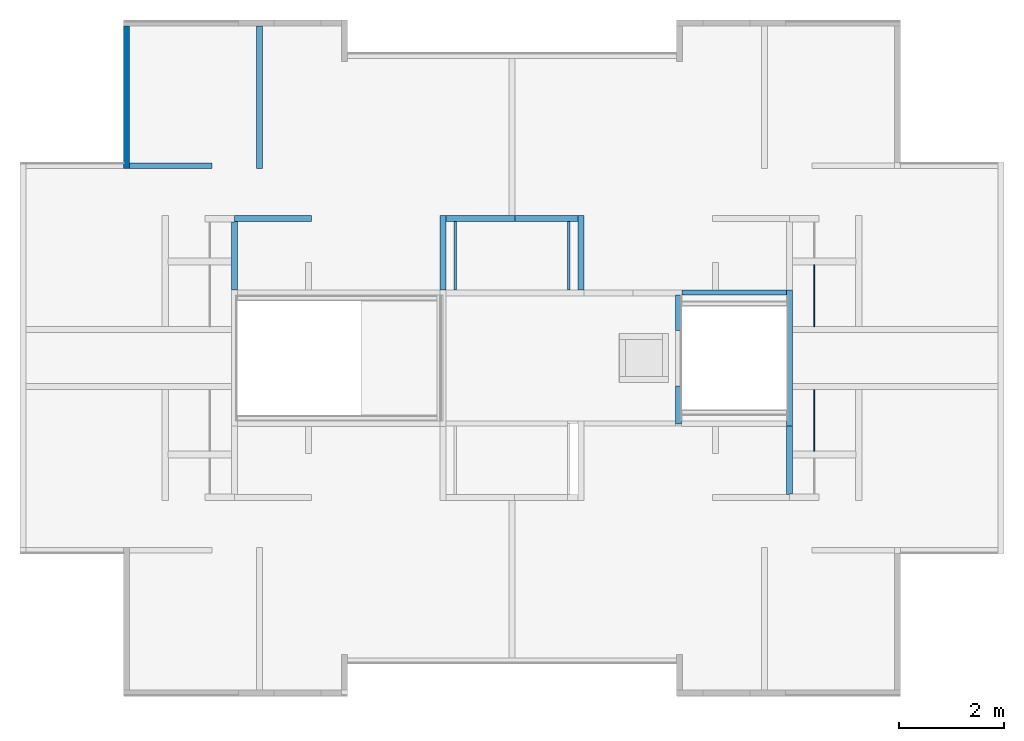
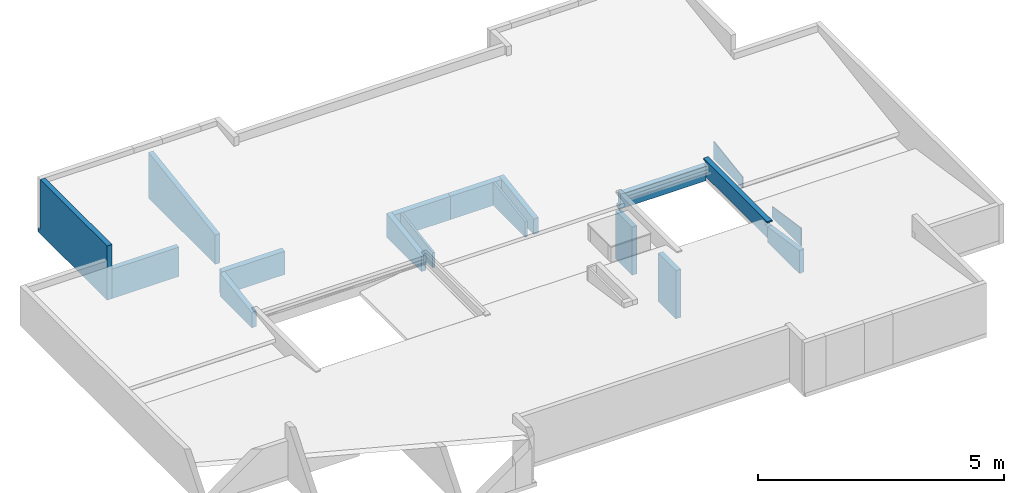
# One storey, part 5 of 9: 18 walls, 2 openings.
"""IFC4 building model written with IfcOpenShell, lengths in metres."""

from ifc_helpers import new_model, entity, si_unit, converted_unit, derived_unit, direction, frame, origin, place, context, subcontext, project, spatial, indexed_curve, outline, extrude, polygons, material, constituent, constituent_set, type_object, element, save


model = new_model("IFC4")

# Units and contexts
model_context = context("Model", 3, precision=1e-05, world=origin(), true_north=direction((6.123031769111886e-17, 1.0)))
body_context = subcontext(model_context, "Body", "Model", "MODEL_VIEW")
ifc_project = project(units=[si_unit("LENGTHUNIT", "METRE"), si_unit("AREAUNIT", "SQUARE_METRE"), si_unit("VOLUMEUNIT", "CUBIC_METRE"), converted_unit("PLANEANGLEUNIT", "DEGREE", entity("IfcRatioMeasure", 0.017453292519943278), si_unit("PLANEANGLEUNIT", "RADIAN"), dimensions=[0, 0, 0, 0, 0, 0, 0]), si_unit("MASSUNIT", "GRAM", prefix="KILO"), derived_unit("MASSDENSITYUNIT", [(si_unit("MASSUNIT", "GRAM", prefix="KILO"), 1), (si_unit("LENGTHUNIT", "METRE"), -3)]), derived_unit("IONCONCENTRATIONUNIT", [(si_unit("MASSUNIT", "GRAM", prefix="KILO"), 1), (si_unit("LENGTHUNIT", "METRE"), -3)]), derived_unit("MOMENTOFINERTIAUNIT", [(si_unit("LENGTHUNIT", "METRE"), 4)]), si_unit("TIMEUNIT", "SECOND"), si_unit("FREQUENCYUNIT", "HERTZ"), si_unit("THERMODYNAMICTEMPERATUREUNIT", "DEGREE_CELSIUS"), derived_unit("THERMALTRANSMITTANCEUNIT", [(si_unit("MASSUNIT", "GRAM", prefix="KILO"), 1), (si_unit("THERMODYNAMICTEMPERATUREUNIT", "KELVIN"), -1), (si_unit("TIMEUNIT", "SECOND"), -3)]), derived_unit("THERMALCONDUCTANCEUNIT", [(si_unit("MASSUNIT", "GRAM", prefix="KILO"), 1), (si_unit("THERMODYNAMICTEMPERATUREUNIT", "KELVIN"), -1), (si_unit("TIMEUNIT", "SECOND"), -3), (si_unit("LENGTHUNIT", "METRE"), 1)]), derived_unit("VOLUMETRICFLOWRATEUNIT", [(si_unit("LENGTHUNIT", "METRE"), 3), (si_unit("TIMEUNIT", "SECOND"), -1)]), derived_unit("MASSFLOWRATEUNIT", [(si_unit("MASSUNIT", "GRAM", prefix="KILO"), 1), (si_unit("TIMEUNIT", "SECOND"), -1)]), derived_unit("ROTATIONALFREQUENCYUNIT", [(si_unit("TIMEUNIT", "SECOND"), -1)]), si_unit("ELECTRICCURRENTUNIT", "AMPERE"), si_unit("ELECTRICVOLTAGEUNIT", "VOLT"), si_unit("POWERUNIT", "WATT"), si_unit("FORCEUNIT", "NEWTON", prefix="KILO"), si_unit("ILLUMINANCEUNIT", "LUX"), si_unit("LUMINOUSFLUXUNIT", "LUMEN"), si_unit("LUMINOUSINTENSITYUNIT", "CANDELA"), derived_unit("USERDEFINED", [(si_unit("MASSUNIT", "GRAM", prefix="KILO"), -1), (si_unit("LENGTHUNIT", "METRE"), -2), (si_unit("TIMEUNIT", "SECOND"), 3), (si_unit("LUMINOUSFLUXUNIT", "LUMEN"), 1)]), derived_unit("USERDEFINED", [(si_unit("MASSUNIT", "GRAM", prefix="KILO"), 1), (si_unit("TIMEUNIT", "SECOND"), -3), (si_unit("LENGTHUNIT", "METRE"), 3), (si_unit("ELECTRICCURRENTUNIT", "AMPERE"), -2)]), derived_unit("SOUNDPOWERUNIT", [(si_unit("MASSUNIT", "GRAM", prefix="KILO"), 1), (si_unit("TIMEUNIT", "SECOND"), -3), (si_unit("LENGTHUNIT", "METRE"), 2)]), derived_unit("SOUNDPRESSUREUNIT", [(si_unit("MASSUNIT", "GRAM", prefix="KILO"), 1), (si_unit("LENGTHUNIT", "METRE"), -1), (si_unit("TIMEUNIT", "SECOND"), -2)]), derived_unit("LINEARVELOCITYUNIT", [(si_unit("LENGTHUNIT", "METRE"), 1), (si_unit("TIMEUNIT", "SECOND"), -1)]), si_unit("PRESSUREUNIT", "PASCAL"), derived_unit("USERDEFINED", [(si_unit("MASSUNIT", "GRAM", prefix="KILO"), 1), (si_unit("LENGTHUNIT", "METRE"), -2), (si_unit("TIMEUNIT", "SECOND"), -2)]), derived_unit("LINEARFORCEUNIT", [(si_unit("MASSUNIT", "GRAM", prefix="KILO"), 1), (si_unit("TIMEUNIT", "SECOND"), -2)]), derived_unit("PLANARFORCEUNIT", [(si_unit("MASSUNIT", "GRAM", prefix="KILO"), 1), (si_unit("LENGTHUNIT", "METRE"), -1), (si_unit("TIMEUNIT", "SECOND"), -2)]), derived_unit("SPECIFICHEATCAPACITYUNIT", [(si_unit("THERMODYNAMICTEMPERATUREUNIT", "KELVIN"), -1), (si_unit("LENGTHUNIT", "METRE"), 2), (si_unit("TIMEUNIT", "SECOND"), -2)]), derived_unit("HEATINGVALUEUNIT", [(si_unit("LENGTHUNIT", "METRE"), 2), (si_unit("TIMEUNIT", "SECOND"), -2)]), derived_unit("VAPORPERMEABILITYUNIT", [(si_unit("LENGTHUNIT", "METRE"), -1), (si_unit("TIMEUNIT", "SECOND"), 1)]), derived_unit("DYNAMICVISCOSITYUNIT", [(si_unit("MASSUNIT", "GRAM", prefix="KILO"), 1), (si_unit("TIMEUNIT", "SECOND"), -1), (si_unit("LENGTHUNIT", "METRE"), -1)]), derived_unit("THERMALEXPANSIONCOEFFICIENTUNIT", [(si_unit("THERMODYNAMICTEMPERATUREUNIT", "KELVIN"), -1)]), derived_unit("MODULUSOFELASTICITYUNIT", [(si_unit("MASSUNIT", "GRAM", prefix="KILO"), 1), (si_unit("LENGTHUNIT", "METRE"), -1), (si_unit("TIMEUNIT", "SECOND"), -2)]), derived_unit("ISOTHERMALMOISTURECAPACITYUNIT", [(si_unit("LENGTHUNIT", "METRE"), 3), (si_unit("MASSUNIT", "GRAM", prefix="KILO"), -1)]), derived_unit("MOISTUREDIFFUSIVITYUNIT", [(si_unit("TIMEUNIT", "SECOND"), -1), (si_unit("LENGTHUNIT", "METRE"), 2)])], contexts=[model_context])

# Site, building, storey
site_placement = place(None, origin())
site = spatial("IfcSite", under=ifc_project, at=site_placement, Name="Default", CompositionType="ELEMENT")
building_placement = place(site_placement, origin())
building = spatial("IfcBuilding", under=site, at=building_placement, CompositionType="ELEMENT")
storey_placement = place(building_placement, frame((0.0, 0.0, 14.10000000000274)))
storey = spatial("IfcBuildingStorey", under=building, at=storey_placement, Name="Nivel 7", CompositionType="ELEMENT", Elevation=14.10000000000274)

# Wall, opening
ifc_material_1 = material(Name="Ladrillo claro (Aire)", Category="Materials")
wall_type_1 = type_object("IfcWallType", Name="Basic Wall:B2010 - 0.115m - Muro exterior en mampostería - Ladrillo", PredefinedType="STANDARD")
wall_1_placement = place(storey_placement, frame((1.9749999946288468, -2.8100000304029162, -0.10000000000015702), z_axis=(0.0, 0.0, 1.0), x_axis=(0.0, 1.0, 0.0)))
wall_1 = element("IfcWall", 1, at=wall_1_placement, inside=storey, type_object=wall_type_1, material=ifc_material_1, Name="Basic Wall:B2010 - 0.115m - Muro exterior en mampostería - Ladrillo", ObjectType="Basic Wall:B2010 - 0.115m - Muro exterior en mampostería - Ladrillo", PredefinedType="NOTDEFINED", context=body_context, shape_type="Tessellation", body=[
    polygons([(0.0, -0.05750000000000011, -2.1657342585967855e-15), (2.800000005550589, -0.05750000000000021, -2.1657342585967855e-15), (2.800000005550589, -0.05750000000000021, 0.0999999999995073), (2.7150000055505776, -0.05750000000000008, 0.0999999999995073), (2.7150000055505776, -0.05750000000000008, 1.3467999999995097), (0.0, -0.05750000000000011, 1.3467999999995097), (0.0, 0.05749999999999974, -2.1657342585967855e-15), (0.0, 0.05749999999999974, 1.3467999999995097), (2.7150000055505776, 0.057499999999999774, 1.3467999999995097), (2.715000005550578, 0.057499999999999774, 0.0999999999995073), (2.800000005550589, 0.057499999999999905, 0.0999999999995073), (2.800000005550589, 0.057499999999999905, -2.1657342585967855e-15)], [[[1, 2, 3, 4, 5, 6]], [[7, 8, 9, 10, 11, 12]], [[2, 1, 7, 12]], [[5, 4, 10, 9]], [[6, 5, 9, 8]], [[1, 6, 8, 7]], [[3, 2, 12, 11]], [[4, 3, 11, 10]]], closed=True),
])
opening_1_placement = place(wall_1_placement, origin())
element("IfcOpeningElement", 2, at=opening_1_placement, cuts=wall_1, Name="Basic Wall:B2010 - 0.115m - Muro exterior en mampostería - Ladrillo", PredefinedType="OPENING", context=body_context, shape_type="SweptSolid", body=[
    extrude(outline(indexed_curve([(-0.6234000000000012, -0.0425000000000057), (0.6233999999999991, -0.04250000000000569), (0.6233999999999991, 0.042500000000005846), (-0.6234000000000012, 0.04250000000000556), (-0.6234000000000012, -0.0425000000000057)], self_intersect=False)), frame((2.757500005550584, 0.05750000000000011, 0.7233999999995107), z_axis=(0.0, -1.0, 0.0), x_axis=(0.0, 0.0, 1.0)), (0.0, 0.0, 1.0), 0.115),
])

# Walls
wall_type_2 = type_object("IfcWallType", Name="Basic Wall:B2010 - 0.115m - Muro interior en mampostería - Ladrillo", PredefinedType="STANDARD")
wall_2_placement = place(storey_placement, frame((4.509999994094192, -0.09500002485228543, -0.10000000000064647), z_axis=(0.0, 0.0, 1.0), x_axis=(0.0, -1.0, 0.0)))
element("IfcWall", 3, at=wall_2_placement, inside=storey, type_object=wall_type_2, material=ifc_material_1, Name="Basic Wall:B2010 - 0.115m - Muro interior en mampostería - Ladrillo", ObjectType="Basic Wall:B2010 - 0.115m - Muro interior en mampostería - Ladrillo", PredefinedType="NOTDEFINED", context=body_context, shape_type="Tessellation", body=[
    polygons([(0.0, -0.05749999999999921, 0.0), (2.7150000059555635, -0.057499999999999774, 0.0), (2.7150000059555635, -0.057499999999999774, 0.7284499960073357), (3.209685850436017e-14, -0.05749999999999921, 1.1356999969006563), (2.707167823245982e-16, 0.057500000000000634, 0.0), (1.522781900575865e-16, 0.057500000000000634, 1.1356999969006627), (2.7150000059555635, 0.05750000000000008, 0.7284499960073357), (2.7150000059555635, 0.05750000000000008, 0.0)], [[[1, 2, 3, 4]], [[5, 6, 7, 8]], [[2, 1, 5, 8]], [[3, 2, 8, 7]], [[4, 3, 7, 6]], [[1, 4, 6, 5]]], closed=True),
])
wall_3_placement = place(storey_placement, frame((4.029999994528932, -3.767500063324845, -0.10000000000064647)))
element("IfcWall", 4, at=wall_3_placement, inside=storey, type_object=wall_type_2, material=ifc_material_1, Name="Basic Wall:B2010 - 0.115m - Muro interior en mampostería - Ladrillo", ObjectType="Basic Wall:B2010 - 0.115m - Muro interior en mampostería - Ladrillo", PredefinedType="NOTDEFINED", context=body_context, shape_type="Tessellation", body=[
    polygons([(-3.7693373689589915e-16, -0.057499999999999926, 0.0), (0.05750000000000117, -0.057499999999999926, 0.0), (1.4724999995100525, -0.057499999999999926, 0.0), (1.4724999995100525, -0.057499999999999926, 0.576199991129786), (0.05750000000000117, -0.057499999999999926, 0.5761999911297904), (-3.7693373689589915e-16, -0.057499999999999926, 0.5761999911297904), (3.265845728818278e-16, 0.057499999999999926, 0.0), (3.265845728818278e-16, 0.057499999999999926, 0.5934499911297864), (1.472499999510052, 0.057499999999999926, 0.5934499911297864), (1.472499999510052, 0.057499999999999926, 0.0)], [[[1, 2, 3, 4, 5, 6]], [[7, 8, 9, 10]], [[3, 2, 1, 7, 10]], [[4, 3, 10, 9]], [[1, 6, 8, 7]], [[6, 5, 4, 9, 8]]], closed=True),
])
wall_4_placement = place(storey_placement, frame((8.005000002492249, -5.124000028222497, -0.10000000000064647), z_axis=(0.0, 0.0, 1.0), x_axis=(0.0, 1.0, 0.0)))
element("IfcWall", 5, at=wall_4_placement, inside=storey, type_object=wall_type_2, material=ifc_material_1, Name="Basic Wall:B2010 - 0.115m - Muro interior en mampostería - Ladrillo", ObjectType="Basic Wall:B2010 - 0.115m - Muro interior en mampostería - Ladrillo", PredefinedType="NOTDEFINED", context=body_context, shape_type="Tessellation", body=[
    polygons([(0.0, -0.057500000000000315, 0.0), (1.4140000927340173, -0.05750000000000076, 0.0), (1.4140000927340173, -0.05750000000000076, 0.5934500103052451), (0.0, -0.057500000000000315, 0.3813499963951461), (0.0, 0.05749999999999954, 0.0), (0.0, 0.05749999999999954, 0.3813499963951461), (1.4140000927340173, 0.05749999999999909, 0.5934500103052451), (1.4140000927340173, 0.05749999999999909, 0.0)], [[[1, 2, 3, 4]], [[5, 6, 7, 8]], [[2, 1, 5, 8]], [[3, 2, 8, 7]], [[1, 4, 6, 5]], [[4, 3, 7, 6]]], closed=True),
])
wall_5_placement = place(storey_placement, frame((10.639999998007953, -5.124000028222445, -0.10000000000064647), z_axis=(0.0, 0.0, 1.0), x_axis=(0.0, 1.0, 0.0)))
element("IfcWall", 6, at=wall_5_placement, inside=storey, type_object=wall_type_2, material=ifc_material_1, Name="Basic Wall:B2010 - 0.115m - Muro interior en mampostería - Ladrillo", ObjectType="Basic Wall:B2010 - 0.115m - Muro interior en mampostería - Ladrillo", PredefinedType="NOTDEFINED", context=body_context, shape_type="Tessellation", body=[
    polygons([(1.0828671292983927e-15, -0.05750000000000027, 0.0), (1.4140000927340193, -0.0575000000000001, 0.0), (1.4140000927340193, -0.0575000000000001, 0.5934500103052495), (1.0828671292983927e-15, -0.05750000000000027, 0.38134999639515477), (1.0828671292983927e-15, 0.05749999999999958, 0.0), (1.0828671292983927e-15, 0.05749999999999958, 0.38134999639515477), (1.4140000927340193, 0.057499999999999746, 0.5934500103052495), (1.4140000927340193, 0.057499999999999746, 0.0)], [[[1, 2, 3, 4]], [[5, 6, 7, 8]], [[2, 1, 5, 8]], [[3, 2, 8, 7]], [[1, 4, 6, 5]], [[4, 3, 7, 6]]], closed=True),
])
wall_6_placement = place(storey_placement, frame((14.615000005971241, -9.024999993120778, -0.10000000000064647), z_axis=(0.0, 0.0, 1.0), x_axis=(0.0, 1.0, 0.0)))
element("IfcWall", 7, at=wall_6_placement, inside=storey, type_object=wall_type_2, material=ifc_material_1, Name="Basic Wall:B2010 - 0.115m - Muro interior en mampostería - Ladrillo", ObjectType="Basic Wall:B2010 - 0.115m - Muro interior en mampostería - Ladrillo", PredefinedType="NOTDEFINED", context=body_context, shape_type="Tessellation", body=[
    polygons([(0.010000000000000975, -0.05750000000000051, 0.0), (0.6900000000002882, -0.0574999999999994, 0.0), (0.8250000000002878, -0.057500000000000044, 0.0), (1.2999999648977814, -0.05750000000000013, 0.0), (1.2999999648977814, -0.05750000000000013, 0.381199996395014), (0.8250000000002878, -0.057500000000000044, 0.4524499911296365), (0.6900000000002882, -0.0574999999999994, 0.4726999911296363), (0.010000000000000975, -0.05750000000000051, 0.5746999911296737), (1.0828671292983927e-15, 0.05749999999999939, 0.0), (1.0828671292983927e-15, 0.05749999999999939, 0.5761999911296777), (1.2974999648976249, 0.05749999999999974, 0.3815749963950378), (1.2994999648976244, 0.05749999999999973, 0.3812749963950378), (1.2999999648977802, 0.05749999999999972, 0.381199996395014), (1.2999999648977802, 0.05749999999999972, 0.0), (1.2994999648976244, 0.05749999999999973, 0.0), (1.2974999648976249, 0.05749999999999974, 0.0), (0.009999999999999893, 1.5829089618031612e-15, 0.0), (1.0828671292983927e-15, 1.6303098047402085e-15, 0.0), (0.010000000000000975, 1.5829089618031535e-15, 0.5746999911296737), (1.0828671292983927e-15, 1.6303098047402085e-15, 0.5761999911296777)], [[[1, 2, 3, 4, 5, 6, 7, 8]], [[9, 10, 11, 12, 13, 14, 15, 16]], [[4, 3, 2, 1, 17, 18, 9, 16, 15, 14]], [[5, 4, 14, 13]], [[1, 8, 19, 17]], [[8, 7, 6, 5, 13, 12, 11, 10, 20, 19]], [[19, 20, 18, 17]], [[20, 10, 9, 18]]], closed=True),
])
wall_7_placement = place(storey_placement, frame((12.500000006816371, -7.67890548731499, -1.295000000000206), z_axis=(0.0, 0.0, 1.0), x_axis=(0.0, 1.0, 0.0)))
element("IfcWall", 8, at=wall_7_placement, inside=storey, type_object=wall_type_2, material=ifc_material_1, Name="Basic Wall:B2010 - 0.115m - Muro interior en mampostería - Ladrillo", ObjectType="Basic Wall:B2010 - 0.115m - Muro interior en mampostería - Ladrillo", PredefinedType="NOTDEFINED", context=body_context, shape_type="Tessellation", body=[
    polygons([(-1.0828671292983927e-15, -0.05750000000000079, -2.1657342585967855e-15), (0.724000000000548, -0.05750000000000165, -2.1657342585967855e-15), (0.724000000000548, -0.05750000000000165, 1.1950000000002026), (-1.0828671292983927e-15, -0.05750000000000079, 1.1950000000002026), (-1.0828671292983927e-15, 0.05749999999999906, -2.1657342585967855e-15), (-1.0828671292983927e-15, 0.05749999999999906, 1.1950000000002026), (0.724000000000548, 0.0574999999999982, 1.1950000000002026), (0.724000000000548, 0.0574999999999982, -2.1657342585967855e-15), (0.724000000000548, -0.027499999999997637, 1.1950000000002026), (-1.0828671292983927e-15, -0.027499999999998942, 1.1950000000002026)], [[[1, 2, 3, 4]], [[5, 6, 7, 8]], [[2, 1, 5, 8]], [[3, 2, 8, 7, 9]], [[1, 4, 10, 6, 5]], [[4, 3, 9, 10]], [[9, 7, 6, 10]]], closed=True),
])
wall_8_placement = place(storey_placement, frame((12.500000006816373, -5.897500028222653, -1.295000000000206), z_axis=(0.0, 0.0, 1.0), x_axis=(0.0, 1.0, 0.0)))
element("IfcWall", 9, at=wall_8_placement, inside=storey, type_object=wall_type_2, material=ifc_material_1, Name="Basic Wall:B2010 - 0.115m - Muro interior en mampostería - Ladrillo", ObjectType="Basic Wall:B2010 - 0.115m - Muro interior en mampostería - Ladrillo", PredefinedType="NOTDEFINED", context=body_context, shape_type="Tessellation", body=[
    polygons([(0.0, -0.05749999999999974, -2.1657342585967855e-15), (0.6719999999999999, -0.057500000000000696, -2.1657342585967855e-15), (0.6719999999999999, -0.057500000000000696, 1.1950000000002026), (0.0, -0.05749999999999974, 1.1950000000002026), (0.0, 0.05750000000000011, -2.1657342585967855e-15), (0.0, 0.05750000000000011, 1.1950000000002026), (0.6719999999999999, 0.057499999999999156, 1.1950000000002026), (0.6719999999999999, 0.057499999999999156, -2.1657342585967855e-15), (0.6719999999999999, -0.02749999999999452, 1.1950000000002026), (0.0, -0.02749999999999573, 1.1950000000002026)], [[[1, 2, 3, 4]], [[5, 6, 7, 8]], [[2, 1, 5, 8]], [[3, 2, 8, 7, 9]], [[1, 4, 10, 6, 5]], [[4, 3, 9, 10]], [[9, 7, 6, 10]]], closed=True),
])
ifc_material_2 = material(Name="Concreto (Aire)", Category="Materials")
wall_type_3 = type_object("IfcWallType", Name="Basic Wall:B2010 - 0.10m - Muro interior en concreto", PredefinedType="STANDARD")
wall_9_placement = place(storey_placement, frame((2.032499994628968, -2.760000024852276, -0.10000000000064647)))
element("IfcWall", 10, at=wall_9_placement, inside=storey, type_object=wall_type_3, material=ifc_material_2, Name="Basic Wall:B2010 - 0.10m - Muro interior en concreto", ObjectType="Basic Wall:B2010 - 0.10m - Muro interior en concreto", PredefinedType="NOTDEFINED", context=body_context, shape_type="Tessellation", body=[
    polygons([(5.862664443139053e-17, -0.05, 0.0), (1.5699999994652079, -0.05, 0.0), (1.5699999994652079, -0.05, 0.7284499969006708), (5.862664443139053e-17, -0.05, 0.728449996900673), (1.8967497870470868e-17, 0.05, 0.0), (1.8967497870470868e-17, 0.05, 0.7434499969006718), (1.569999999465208, 0.05, 0.7434499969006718), (1.569999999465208, 0.05, 0.0), (1.5699999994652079, -0.04950000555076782, 0.7285249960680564), (5.70747820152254e-17, -0.04950000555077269, 0.7285249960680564)], [[[1, 2, 3, 4]], [[5, 6, 7, 8]], [[2, 1, 5, 8]], [[3, 2, 8, 7, 9]], [[1, 4, 10, 6, 5]], [[4, 3, 9, 7, 6, 10]]], closed=True),
])
ifc_material_3 = material(Name="LADRILLO CLARO", Category="Materials")
wall_type_4 = type_object("IfcWallType", Name="Basic Wall:B2010 - 0.115m - MI mampostería no estructural - Ladrillo", PredefinedType="STANDARD")
wall_10_placement = place(storey_placement, frame((14.615000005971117, -7.725500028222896, 0.0), z_axis=(0.0, 0.0, 1.0), x_axis=(0.0, 1.0, 0.0)))
element("IfcWall", 11, at=wall_10_placement, inside=storey, type_object=wall_type_4, material=ifc_material_3, Name="Basic Wall:B2010 - 0.115m - MI mampostería no estructural - Ladrillo", ObjectType="Basic Wall:B2010 - 0.115m - MI mampostería no estructural - Ladrillo", PredefinedType="NOTDEFINED", context=body_context, shape_type="Tessellation", body=[
    polygons([(1.0828671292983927e-15, -0.057499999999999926, -2.1657342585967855e-15), (2.6010000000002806, -0.057499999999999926, -2.1657342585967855e-15), (2.6010000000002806, -0.057499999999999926, 0.2812749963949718), (2.5000000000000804, -0.057499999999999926, 0.26612499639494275), (2.5000000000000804, -0.057499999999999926, 0.3546038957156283), (2.6010000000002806, -0.057499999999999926, 0.36975389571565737), (2.6010000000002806, -0.057499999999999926, 0.4000000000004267), (1.0828671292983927e-15, -0.057499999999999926, 0.4000000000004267), (1.0828671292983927e-15, -0.057499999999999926, 0.3697538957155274), (0.10100000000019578, -0.05749999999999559, 0.35460389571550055), (0.10100000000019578, -0.05749999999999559, 0.2661249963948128), (1.0828671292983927e-15, -0.057499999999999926, 0.2812749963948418), (2.6010000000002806, 0.057499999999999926, -2.1657342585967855e-15), (2.5000000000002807, 0.057499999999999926, 0.0), (0.10100000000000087, 0.057499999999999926, 0.0), (1.0828671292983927e-15, 0.057499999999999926, -2.1657342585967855e-15), (1.0828671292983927e-15, 0.057499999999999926, 0.2812749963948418), (0.10100000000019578, 0.05750000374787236, 0.26612499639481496), (0.10100000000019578, 0.05750000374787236, 0.35460389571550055), (1.0828671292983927e-15, 0.057499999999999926, 0.3697538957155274), (1.0828671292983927e-15, 0.057499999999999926, 0.4000000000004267), (2.6010000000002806, 0.057499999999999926, 0.4000000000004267), (2.6010000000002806, 0.057499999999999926, 0.36975389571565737), (2.5000000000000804, 0.0575000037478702, 0.3546038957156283), (2.5000000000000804, 0.0575000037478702, 0.26612499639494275), (2.6005000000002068, 0.057499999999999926, 0.28119999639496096), (2.6010000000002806, 0.057499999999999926, 0.2812749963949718)], [[[1, 2, 3, 4, 5, 6, 7, 8, 9, 10, 11, 12]], [[13, 14, 15, 16, 17, 18, 19, 20, 21, 22, 23, 24, 25, 26, 27]], [[2, 1, 16, 15, 14, 13]], [[8, 7, 22, 21]], [[2, 13, 27, 3]], [[8, 21, 20, 9]], [[25, 4, 3, 27, 26]], [[5, 24, 23, 6]], [[4, 25, 24, 5]], [[11, 18, 17, 12]], [[19, 10, 9, 20]], [[18, 11, 10, 19]], [[16, 1, 12, 17]], [[22, 7, 6, 23]]], closed=True),
])
wall_11_placement = place(storey_placement, frame((8.062500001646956, -3.7675000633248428, -0.10000000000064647)))
element("IfcWall", 12, at=wall_11_placement, inside=storey, type_object=wall_type_4, material=ifc_material_3, Name="Basic Wall:B2010 - 0.115m - MI mampostería no estructural - Ladrillo", ObjectType="Basic Wall:B2010 - 0.115m - MI mampostería no estructural - Ladrillo", PredefinedType="NOTDEFINED", context=body_context, shape_type="Tessellation", body=[
    polygons([(-1.1016908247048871e-15, -0.057499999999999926, 0.0), (0.14999999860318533, -0.057499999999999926, 0.0), (0.19999999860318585, -0.057499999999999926, 0.0), (1.3199999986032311, -0.057499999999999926, 0.0), (1.3199999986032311, -0.057499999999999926, 0.5761999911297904), (0.19999999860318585, -0.057499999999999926, 0.5761999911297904), (0.14999999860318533, -0.057499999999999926, 0.5761999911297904), (-1.1016908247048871e-15, -0.057499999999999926, 0.5761999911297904), (-1.4266927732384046e-15, 0.057499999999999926, 0.0), (-1.4266927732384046e-15, 0.057499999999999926, 0.5934499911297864), (1.1999999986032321, 0.057499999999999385, 0.5934499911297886), (1.319999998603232, 0.057499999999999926, 0.5934499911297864), (1.319999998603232, 0.057499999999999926, 0.0), (1.199999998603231, 0.057499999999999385, 0.0)], [[[1, 2, 3, 4, 5, 6, 7, 8]], [[9, 10, 11, 12, 13, 14]], [[4, 3, 2, 1, 9, 14, 13]], [[1, 8, 10, 9]], [[5, 4, 13, 12]], [[8, 7, 6, 5, 12, 11, 10]]], closed=True),
])
wall_12_placement = place(storey_placement, frame((4.029999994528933, -3.825000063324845, -0.10000000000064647), z_axis=(0.0, 0.0, 1.0), x_axis=(0.0, -1.0, 0.0)))
element("IfcWall", 13, at=wall_12_placement, inside=storey, type_object=wall_type_4, material=ifc_material_3, Name="Basic Wall:B2010 - 0.115m - MI mampostería no estructural - Ladrillo", ObjectType="Basic Wall:B2010 - 0.115m - MI mampostería no estructural - Ladrillo", PredefinedType="NOTDEFINED", context=body_context, shape_type="Tessellation", body=[
    polygons([(0.009999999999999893, -0.05749999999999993, 0.0), (0.6900000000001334, -0.057499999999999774, 0.0), (0.8250000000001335, -0.057500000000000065, 0.0), (1.299999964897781, -0.05749999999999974, 0.0), (1.299999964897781, -0.05749999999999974, 0.38119999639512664), (0.8250000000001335, -0.057500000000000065, 0.4524499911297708), (0.6900000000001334, -0.057499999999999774, 0.47269999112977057), (0.009999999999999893, -0.05749999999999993, 0.5746999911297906), (0.0, 0.0574999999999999, 0.0), (0.0, 0.0574999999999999, 0.5761999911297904), (1.2999999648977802, 0.05750000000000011, 0.38119999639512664), (1.2999999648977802, 0.05750000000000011, 0.0), (0.009999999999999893, -9.229688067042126e-18, 0.0), (0.0, -1.65185999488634e-15, 0.0), (0.009999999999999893, -9.229688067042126e-18, 0.5746999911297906), (-5.414335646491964e-16, -5.689928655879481e-16, 0.5761999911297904)], [[[1, 2, 3, 4, 5, 6, 7, 8]], [[9, 10, 11, 12]], [[4, 3, 2, 1, 13, 14, 9, 12]], [[5, 4, 12, 11]], [[1, 8, 15, 13]], [[15, 16, 14, 13]], [[16, 10, 9, 14]], [[8, 7, 6, 5, 11, 10, 16, 15]]], closed=True),
])
wall_13_placement = place(storey_placement, frame((10.582499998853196, -3.7675000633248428, -0.10000000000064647), z_axis=(0.0, 0.0, 1.0), x_axis=(-1.0, 0.0, 0.0)))
element("IfcWall", 14, at=wall_13_placement, inside=storey, type_object=wall_type_4, material=ifc_material_3, Name="Basic Wall:B2010 - 0.115m - MI mampostería no estructural - Ladrillo", ObjectType="Basic Wall:B2010 - 0.115m - MI mampostería no estructural - Ladrillo", PredefinedType="NOTDEFINED", context=body_context, shape_type="Tessellation", body=[
    polygons([(-3.438256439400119e-16, -0.057499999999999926, 0.0), (1.1999999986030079, -0.057499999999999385, 0.0), (1.1999999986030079, -0.057499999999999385, 0.5934499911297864), (-3.438256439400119e-16, -0.057499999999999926, 0.5934499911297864), (-1.8823695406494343e-17, 0.057499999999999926, 0.0), (-1.8823695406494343e-17, 0.057499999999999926, 0.5761999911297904), (0.1499999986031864, 0.057499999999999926, 0.5761999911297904), (0.19999999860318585, 0.057499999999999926, 0.5761999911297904), (1.1999999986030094, 0.05750000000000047, 0.5761999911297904), (1.1999999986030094, 0.05750000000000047, 0.0), (0.19999999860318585, 0.057499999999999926, 0.0), (0.1499999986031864, 0.057499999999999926, 0.0)], [[[1, 2, 3, 4]], [[5, 6, 7, 8, 9, 10, 11, 12]], [[2, 1, 5, 12, 11, 10]], [[1, 4, 6, 5]], [[3, 2, 10, 9]], [[4, 3, 9, 8, 7, 6]]], closed=True),
])
ifc_material_4 = material(Name="0 muro divisorio", Category="Materials")
wall_type_5 = type_object("IfcWallType", Name="Basic Wall:B2010 - 0.05m - MI No estructural- Concreto", PredefinedType="STANDARD")
wall_14_placement = place(storey_placement, frame((8.237500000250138, -5.1250000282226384, -0.10000000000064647), z_axis=(0.0, 0.0, 1.0), x_axis=(0.0, 1.0, 0.0)))
element("IfcWall", 15, at=wall_14_placement, inside=storey, type_object=wall_type_5, material=ifc_material_4, Name="Basic Wall:B2010 - 0.05m - MI No estructural- Concreto", ObjectType="Basic Wall:B2010 - 0.05m - MI No estructural- Concreto", PredefinedType="NOTDEFINED", context=body_context, shape_type="Tessellation", body=[
    polygons([(0.0, -0.02500000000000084, 0.0), (1.299999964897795, -0.024999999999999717, 0.0), (1.299999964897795, -0.024999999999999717, 0.5761999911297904), (0.0, -0.02500000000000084, 0.3811999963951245), (0.0, 0.024999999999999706, 0.0), (0.0, 0.024999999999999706, 0.3811999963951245), (1.299999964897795, 0.024999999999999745, 0.5761999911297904), (1.299999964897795, 0.024999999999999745, 0.0)], [[[1, 2, 3, 4]], [[5, 6, 7, 8]], [[2, 1, 5, 8]], [[1, 4, 6, 5]], [[3, 2, 8, 7]], [[4, 3, 7, 6]]], closed=True),
])
wall_15_placement = place(storey_placement, frame((10.407500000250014, -5.125000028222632, -0.10000000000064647), z_axis=(0.0, 0.0, 1.0), x_axis=(0.0, 1.0, 0.0)))
element("IfcWall", 16, at=wall_15_placement, inside=storey, type_object=wall_type_5, material=ifc_material_4, Name="Basic Wall:B2010 - 0.05m - MI No estructural- Concreto", ObjectType="Basic Wall:B2010 - 0.05m - MI No estructural- Concreto", PredefinedType="NOTDEFINED", context=body_context, shape_type="Tessellation", body=[
    polygons([(0.0, -0.024999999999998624, 0.0), (1.2999999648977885, -0.024999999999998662, 0.0), (1.2999999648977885, -0.024999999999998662, 0.5761999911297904), (0.0, -0.024999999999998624, 0.3811999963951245), (0.0, -0.024999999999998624, 0.10000000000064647), (0.0, 0.02500000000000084, 0.0), (0.0, 0.02500000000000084, 0.3811999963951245), (1.2999999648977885, 0.025000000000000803, 0.5761999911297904), (1.2999999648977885, 0.025000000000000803, 0.0)], [[[1, 2, 3, 4, 5]], [[6, 7, 8, 9]], [[2, 1, 6, 9]], [[4, 3, 8, 7]], [[1, 5, 4, 7, 6]], [[3, 2, 9, 8]]], closed=True),
])
ifc_material_5 = material(Name="Plasterboard", Category="Materials")
wall_type_6 = type_object("IfcWallType", Name="Basic Wall:C1070 - 0.02m - Plafón - Drywall", PredefinedType="STANDARD")
wall_16_placement = place(storey_placement, frame((15.082500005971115, -5.825000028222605, -0.10000000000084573), z_axis=(0.0, 0.0, 1.0), x_axis=(0.0, 1.0, 0.0)))
element("IfcWall", 17, at=wall_16_placement, inside=storey, type_object=wall_type_6, material=ifc_material_5, Name="Basic Wall:C1070 - 0.02m - Plafón - Drywall", ObjectType="Basic Wall:C1070 - 0.02m - Plafón - Drywall", PredefinedType="NOTDEFINED", context=body_context, shape_type="Tessellation", body=[
    polygons([(0.0, -0.010000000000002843, 0.0), (1.1749999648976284, -0.010000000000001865, 0.0), (1.1749999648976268, -0.010000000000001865, 0.4524499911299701), (0.0, -0.010000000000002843, 0.27619999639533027), (0.0, 0.009999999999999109, 0.0), (0.0, 0.009999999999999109, 0.27619999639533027), (1.1749999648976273, 0.010000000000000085, 0.45244999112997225), (1.1749999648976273, 0.010000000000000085, 0.0)], [[[1, 2, 3, 4]], [[5, 6, 7, 8]], [[2, 1, 5, 8]], [[3, 2, 8, 7]], [[4, 3, 7, 6]], [[1, 4, 6, 5]]], closed=True),
])
wall_17_placement = place(storey_placement, frame((15.082500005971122, -7.025000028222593, -0.10000000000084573), z_axis=(0.0, 0.0, 1.0), x_axis=(0.0, -1.0, 0.0)))
element("IfcWall", 18, at=wall_17_placement, inside=storey, type_object=wall_type_6, material=ifc_material_5, Name="Basic Wall:C1070 - 0.02m - Plafón - Drywall", ObjectType="Basic Wall:C1070 - 0.02m - Plafón - Drywall", PredefinedType="NOTDEFINED", context=body_context, shape_type="Tessellation", body=[
    polygons([(0.0, -0.01000000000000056, 0.0), (1.1749999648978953, -0.010000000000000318, 0.0), (1.1749999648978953, -0.010000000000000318, 0.45244999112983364), (0.0, -0.01000000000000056, 0.2761999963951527), (0.0, 0.009999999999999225, 0.0), (0.0, 0.009999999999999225, 0.2761999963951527), (1.1749999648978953, 0.009999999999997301, 0.45244999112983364), (1.1749999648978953, 0.009999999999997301, 0.0)], [[[1, 2, 3, 4]], [[5, 6, 7, 8]], [[2, 1, 5, 8]], [[3, 2, 8, 7]], [[4, 3, 7, 6]], [[1, 4, 6, 5]]], closed=True),
])

# Wall, opening
ifc_material_6 = material(Name="Graniplast", Category="Materials")
ifc_constituent_1 = constituent(ifc_material_6, Name="Graniplast", Category="Materials")
ifc_constituent_2 = constituent(ifc_material_2, Name="Concreto (Aire)", Category="Materials")
ifc_constituent_set = constituent_set(constituents=[ifc_constituent_1, ifc_constituent_2], Name="Basic Wall:B2010 - 0.10m - MI Concreto- Concreto+Graniplast")
wall_type_7 = type_object("IfcWallType", Name="Basic Wall:B2010 - 0.10m - MI Concreto- Concreto+Graniplast", PredefinedType="STANDARD", material=ifc_constituent_set)
wall_18_placement = place(storey_placement, frame((12.52750000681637, -5.175000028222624, -0.10000000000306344)))
wall_18 = element("IfcWall", 19, at=wall_18_placement, inside=storey, type_object=wall_type_7, material=ifc_constituent_set, Name="Basic Wall:B2010 - 0.10m - MI Concreto- Concreto+Graniplast", ObjectType="Basic Wall:B2010 - 0.10m - MI Concreto- Concreto+Graniplast", PredefinedType="NOTDEFINED", context=body_context, shape_type="Tessellation", body=[
    polygons([(2.4394103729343e-16, -0.04949999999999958, 0.10000000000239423), (2.4025692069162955e-16, -0.05049999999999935, 0.10000000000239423), (0.03000000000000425, -0.05049999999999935, 0.10000000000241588), (0.03499999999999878, -0.05049999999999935, 0.10000000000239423), (0.03499999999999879, -0.04949999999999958, 0.10000000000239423), (2.4394103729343e-16, -0.04949999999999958, 0.0), (2.4025692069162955e-16, -0.05049999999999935, 0.0), (2.029999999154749, -0.04949999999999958, 0.0), (2.029999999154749, -0.05049999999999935, 0.0), (0.03000000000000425, -0.05049999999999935, 0.0), (2.029999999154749, -0.05049999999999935, 0.10000000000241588), (2.029999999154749, -0.04949999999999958, 0.10000000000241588), (2.029999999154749, -0.04949999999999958, 0.36627499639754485), (2.029999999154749, -0.050500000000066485, 0.36612499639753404), (0.03499999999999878, -0.05049999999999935, 0.3661249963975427), (0.03499999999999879, -0.04949999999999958, 0.3662749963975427)], [[[1, 2, 3, 4, 5]], [[6, 7, 2, 1]], [[8, 9, 10, 7, 6]], [[11, 9, 8, 12, 13, 14]], [[9, 11, 14, 15, 4, 3, 2, 7, 10]], [[12, 8, 6, 1, 5, 16, 13]], [[15, 14, 13, 16]], [[4, 15, 16, 5]]], closed=True),
    polygons([(2.4394103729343e-16, -0.04949999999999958, 0.10000000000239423), (0.03499999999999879, -0.04949999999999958, 0.10000000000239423), (0.03499999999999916, 0.05050000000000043, 0.10000000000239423), (6.123526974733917e-16, 0.05050000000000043, 0.10000000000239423), (2.4394103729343e-16, -0.04949999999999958, 0.0), (2.029999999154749, -0.04949999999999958, 0.0), (2.029999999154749, -0.04949999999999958, 0.10000000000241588), (2.029999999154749, -0.04949999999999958, 0.3662749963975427), (0.03499999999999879, -0.04949999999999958, 0.3662749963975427), (6.123526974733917e-16, 0.05050000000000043, 0.0), (0.6149999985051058, 0.05050000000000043, 0.0), (0.7299999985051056, 0.05050000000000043, 0.0), (2.029999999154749, 0.05050000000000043, 0.0), (2.029999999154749, 0.05050000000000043, 0.10000000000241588), (2.029999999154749, 0.05050000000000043, 0.3812749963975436), (2.029999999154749, 0.04999999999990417, 0.38119999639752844), (0.03499999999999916, 0.05050000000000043, 0.3812749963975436), (0.6149999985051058, 0.05050000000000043, 0.3812749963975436), (0.7299999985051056, 0.05050000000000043, 0.3812749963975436)], [[[1, 2, 3, 4]], [[1, 5, 6, 7, 8, 9, 2]], [[5, 1, 4, 10]], [[6, 5, 10, 11, 12, 13]], [[7, 6, 13, 14, 15, 16, 8]], [[14, 13, 12, 11, 10, 4, 3, 17, 18, 19, 15]], [[9, 8, 16, 15, 19, 18, 17]], [[2, 9, 17, 3]]], closed=True),
])
opening_2_placement = place(wall_18_placement, origin())
element("IfcOpeningElement", 20, at=opening_2_placement, cuts=wall_18, Name="Basic Wall:B2010 - 0.10m - MI Concreto- Concreto+Graniplast", PredefinedType="OPENING", context=body_context, shape_type="SweptSolid", body=[
    extrude(outline(indexed_curve([(-0.017499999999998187, -0.14999999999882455), (0.017500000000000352, -0.14999999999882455), (0.017500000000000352, 0.14999999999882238), (-0.017499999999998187, 0.14999999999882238), (-0.017499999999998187, -0.14999999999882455)], self_intersect=False)), frame((0.017500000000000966, 0.05050000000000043, 0.2500000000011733), z_axis=(0.0, -1.0, 0.0), x_axis=(-1.0, 0.0, 0.0)), (0.0, 0.0, 1.0), 0.10100000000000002),
])

save(model, "model.ifc")
